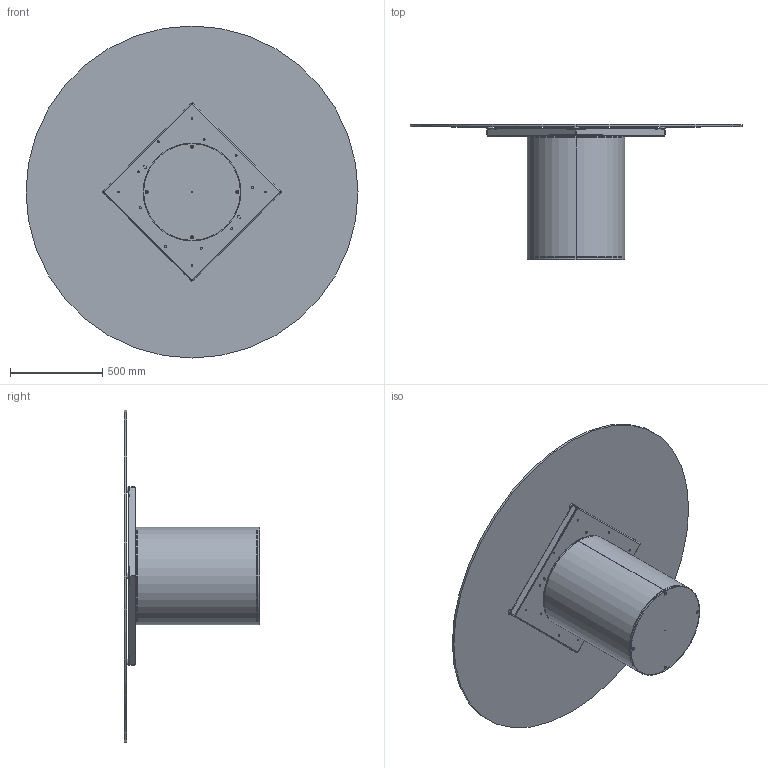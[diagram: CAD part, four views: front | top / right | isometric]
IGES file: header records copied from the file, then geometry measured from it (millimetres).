
Start section: SolidWorks IGES file using analytic representation for surfaces
Global section: file name: Y:\eforma\TECNICO\SOLIDWORKS\E-FORMA\1-TAVOLI\CILINDRO\02 parts\CI13G.IGS; native system: SolidWorks 2022; preprocessor: SolidWorks 2022; author: eforma.tech; date: 240808.090355; units: millimetre
Bounding box: 1800 x 732 x 1800 mm (x, y, z)
Volume: 37857610.6 mm3; surface area: 9301409.8 mm2
Topology: 23 solids, 23 shells, 704 faces, 1782 edges, 1106 vertices
Faces by surface type: revolution 372, plane 332
